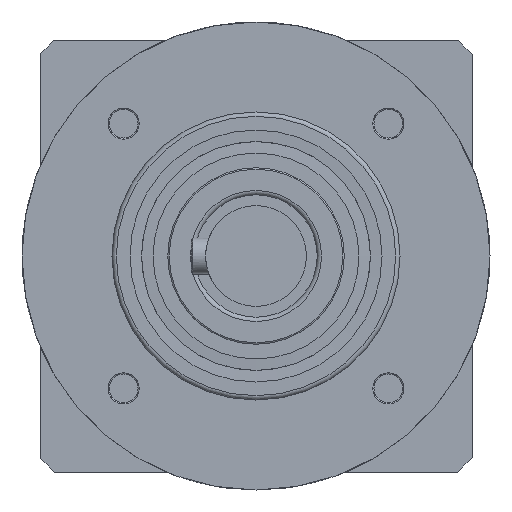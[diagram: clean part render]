
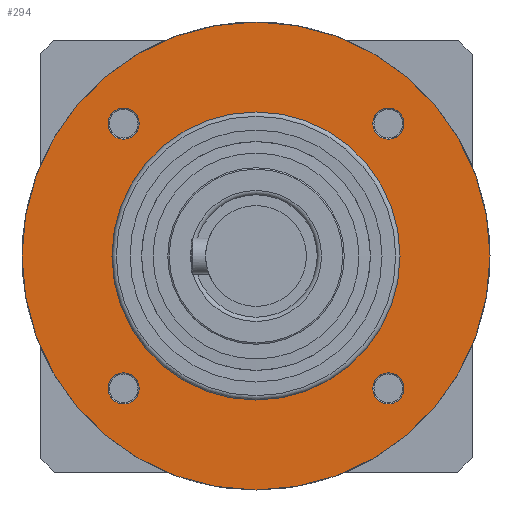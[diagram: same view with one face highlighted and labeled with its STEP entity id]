
A CAD part, left-side view. The second image highlights one B-rep face of the part: STEP entity #294.
In plain terms, the highlighted planar face has unit normal (-1, 0, 0).
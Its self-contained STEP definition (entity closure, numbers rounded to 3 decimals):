
#294 = ADVANCED_FACE( '', ( #651, #652, #653, #654, #655, #656 ), #657, .T. );
#651 = FACE_BOUND( '', #1028, .T. );
#652 = FACE_BOUND( '', #1029, .T. );
#653 = FACE_BOUND( '', #1030, .T. );
#654 = FACE_BOUND( '', #1031, .T. );
#655 = FACE_BOUND( '', #1032, .T. );
#656 = FACE_OUTER_BOUND( '', #1033, .T. );
#657 = PLANE( '', #1034 );
#1028 = EDGE_LOOP( '', ( #1717 ) );
#1029 = EDGE_LOOP( '', ( #1718 ) );
#1030 = EDGE_LOOP( '', ( #1719 ) );
#1031 = EDGE_LOOP( '', ( #1720 ) );
#1032 = EDGE_LOOP( '', ( #1721 ) );
#1033 = EDGE_LOOP( '', ( #1722 ) );
#1034 = AXIS2_PLACEMENT_3D( '', #1723, #1724, #1725 );
#1717 = ORIENTED_EDGE( '', *, *, #1955, .F. );
#1718 = ORIENTED_EDGE( '', *, *, #1994, .T. );
#1719 = ORIENTED_EDGE( '', *, *, #2087, .T. );
#1720 = ORIENTED_EDGE( '', *, *, #1950, .T. );
#1721 = ORIENTED_EDGE( '', *, *, #2088, .T. );
#1722 = ORIENTED_EDGE( '', *, *, #1860, .F. );
#1723 = CARTESIAN_POINT( '', ( -57.55, 0., 0. ) );
#1724 = DIRECTION( '', ( -1., 0., 0. ) );
#1725 = DIRECTION( '', ( 0., 0., 1. ) );
#1860 = EDGE_CURVE( '', #2152, #2152, #2153, .T. );
#1950 = EDGE_CURVE( '', #2297, #2297, #2298, .T. );
#1955 = EDGE_CURVE( '', #2305, #2305, #2306, .T. );
#1994 = EDGE_CURVE( '', #2361, #2361, #2362, .T. );
#2087 = EDGE_CURVE( '', #2485, #2485, #2486, .T. );
#2088 = EDGE_CURVE( '', #2487, #2487, #2488, .T. );
#2152 = VERTEX_POINT( '', #2556 );
#2153 = CIRCLE( '', #2557, 32.5 );
#2297 = VERTEX_POINT( '', #2794 );
#2298 = CIRCLE( '', #2795, 2.175 );
#2305 = VERTEX_POINT( '', #2802 );
#2306 = CIRCLE( '', #2803, 20. );
#2361 = VERTEX_POINT( '', #3063 );
#2362 = CIRCLE( '', #3064, 2.175 );
#2485 = VERTEX_POINT( '', #3209 );
#2486 = CIRCLE( '', #3210, 2.175 );
#2487 = VERTEX_POINT( '', #3211 );
#2488 = CIRCLE( '', #3212, 2.175 );
#2556 = CARTESIAN_POINT( '', ( -57.55, 0., -32.5 ) );
#2557 = AXIS2_PLACEMENT_3D( '', #3280, #3281, #3282 );
#2794 = CARTESIAN_POINT( '', ( -57.55, -16.847, -19.923 ) );
#2795 = AXIS2_PLACEMENT_3D( '', #3414, #3415, #3416 );
#2802 = CARTESIAN_POINT( '', ( -57.55, 0., 20. ) );
#2803 = AXIS2_PLACEMENT_3D( '', #3423, #3424, #3425 );
#3063 = CARTESIAN_POINT( '', ( -57.55, 16.847, 19.923 ) );
#3064 = AXIS2_PLACEMENT_3D( '', #3464, #3465, #3466 );
#3209 = CARTESIAN_POINT( '', ( -57.55, -19.923, 16.847 ) );
#3210 = AXIS2_PLACEMENT_3D( '', #3573, #3574, #3575 );
#3211 = CARTESIAN_POINT( '', ( -57.55, 19.923, -16.847 ) );
#3212 = AXIS2_PLACEMENT_3D( '', #3576, #3577, #3578 );
#3280 = CARTESIAN_POINT( '', ( -57.55, 0., 0. ) );
#3281 = DIRECTION( '', ( 1., 0., 0. ) );
#3282 = DIRECTION( '', ( 0., 0., -1. ) );
#3414 = CARTESIAN_POINT( '', ( -57.55, -18.385, -18.385 ) );
#3415 = DIRECTION( '', ( 1., 0., 0. ) );
#3416 = DIRECTION( '', ( 0., 0.707, -0.707 ) );
#3423 = CARTESIAN_POINT( '', ( -57.55, 0., 0. ) );
#3424 = DIRECTION( '', ( -1., 0., 0. ) );
#3425 = DIRECTION( '', ( 0., 0., 1. ) );
#3464 = CARTESIAN_POINT( '', ( -57.55, 18.385, 18.385 ) );
#3465 = DIRECTION( '', ( 1., 0., 0. ) );
#3466 = DIRECTION( '', ( 0., -0.707, 0.707 ) );
#3573 = CARTESIAN_POINT( '', ( -57.55, -18.385, 18.385 ) );
#3574 = DIRECTION( '', ( 1., 0., 0. ) );
#3575 = DIRECTION( '', ( 0., -0.707, -0.707 ) );
#3576 = CARTESIAN_POINT( '', ( -57.55, 18.385, -18.385 ) );
#3577 = DIRECTION( '', ( 1., 0., 0. ) );
#3578 = DIRECTION( '', ( 0., 0.707, 0.707 ) );
